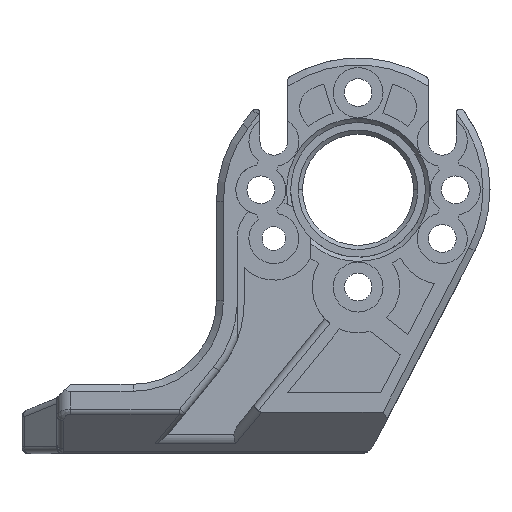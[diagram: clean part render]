
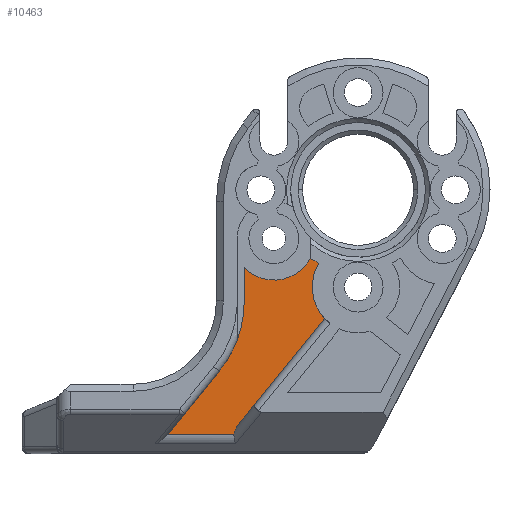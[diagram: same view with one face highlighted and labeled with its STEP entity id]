
A CAD part, front view. The second image highlights one B-rep face of the part: STEP entity #10463.
In plain terms, the highlighted planar face has unit normal (0, -1, 0).
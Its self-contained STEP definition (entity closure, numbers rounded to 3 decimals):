
#290=DIRECTION('',(-1.,0.,0.));
#291=VECTOR('',#290,4.75);
#292=CARTESIAN_POINT('',(2.765,-18.5,1.414));
#293=LINE('',#292,#291);
#294=DIRECTION('',(-0.631,0.,-0.776));
#295=VECTOR('',#294,5.849);
#296=CARTESIAN_POINT('',(1.706,-18.5,5.952));
#297=LINE('',#296,#295);
#298=CARTESIAN_POINT('',(-4.5,-18.5,11.));
#299=DIRECTION('',(0.,1.,0.));
#300=DIRECTION('',(1.,0.,0.));
#301=AXIS2_PLACEMENT_3D('',#298,#299,#300);
#303=DIRECTION('',(0.,0.,-1.));
#304=VECTOR('',#303,2.395);
#305=CARTESIAN_POINT('',(3.5,-18.5,13.395));
#306=LINE('',#305,#304);
#307=CARTESIAN_POINT('',(5.638,-18.5,15.5));
#308=DIRECTION('',(0.,1.,0.));
#309=DIRECTION('',(0.88,0.,-0.476));
#310=AXIS2_PLACEMENT_3D('',#307,#308,#309);
#312=CARTESIAN_POINT('',(11.7,-18.5,19.));
#313=DIRECTION('',(0.,1.,0.));
#314=DIRECTION('',(-0.471,0.,-0.882));
#315=AXIS2_PLACEMENT_3D('',#312,#313,#314);
#317=CARTESIAN_POINT('',(11.7,-18.5,12.));
#318=DIRECTION('',(0.,1.,0.));
#319=DIRECTION('',(-0.728,0.,-0.686));
#320=AXIS2_PLACEMENT_3D('',#317,#318,#319);
#342=DIRECTION('',(0.631,0.,0.776));
#343=VECTOR('',#342,9.945);
#344=CARTESIAN_POINT('',(3.022,-18.5,2.023));
#345=LINE('',#344,#343);
#371=CARTESIAN_POINT('',(2.765,-18.5,1.414));
#373=CARTESIAN_POINT('',(2.765,-18.5,1.414));
#374=CARTESIAN_POINT('',(2.769,-18.5,1.53));
#375=CARTESIAN_POINT('',(2.831,-18.5,1.742));
#376=CARTESIAN_POINT('',(2.948,-18.5,1.933));
#377=CARTESIAN_POINT('',(3.022,-18.5,2.023));
#8228=CARTESIAN_POINT('',(8.875,-18.5,13.706));
#8229=CARTESIAN_POINT('',(8.276,-18.5,14.072));
#8230=VERTEX_POINT('',#8228);
#8231=VERTEX_POINT('',#8229);
#8232=CARTESIAN_POINT('',(3.5,-18.5,13.395));
#8233=VERTEX_POINT('',#8232);
#8758=CARTESIAN_POINT('',(3.5,-18.5,11.));
#8759=VERTEX_POINT('',#8758);
#8760=CARTESIAN_POINT('',(1.706,-18.5,5.952));
#8761=VERTEX_POINT('',#8760);
#8770=CARTESIAN_POINT('',(9.298,-18.5,9.738));
#8771=VERTEX_POINT('',#8770);
#9410=CARTESIAN_POINT('',(-1.985,-18.5,1.414));
#9411=VERTEX_POINT('',#9410);
#9474=CARTESIAN_POINT('',(3.022,-18.5,2.023));
#9475=VERTEX_POINT('',#9474);
#9480=VERTEX_POINT('',#371);
#10439=CARTESIAN_POINT('',(0.,-18.5,0.));
#10440=DIRECTION('',(0.,-1.,0.));
#10441=DIRECTION('',(-1.,0.,0.));
#10442=AXIS2_PLACEMENT_3D('',#10439,#10440,#10441);
#10443=PLANE('',#10442);
#10445=ORIENTED_EDGE('',*,*,#10444,.F.);
#10447=ORIENTED_EDGE('',*,*,#10446,.F.);
#10449=ORIENTED_EDGE('',*,*,#10448,.T.);
#10451=ORIENTED_EDGE('',*,*,#10450,.F.);
#10453=ORIENTED_EDGE('',*,*,#10452,.F.);
#10455=ORIENTED_EDGE('',*,*,#10454,.F.);
#10457=ORIENTED_EDGE('',*,*,#10456,.F.);
#10459=ORIENTED_EDGE('',*,*,#10458,.F.);
#10460=ORIENTED_EDGE('',*,*,#10402,.F.);
#10461=EDGE_LOOP('',(#10445,#10447,#10449,#10451,#10453,#10455,#10457,#10459,
#10460));
#10462=FACE_OUTER_BOUND('',#10461,.F.);
#10463=ADVANCED_FACE('',(#10462),#10443,.T.);
#302=CIRCLE('',#301,8.);
#311=CIRCLE('',#310,3.);
#316=CIRCLE('',#315,6.);
#321=CIRCLE('',#320,3.3);
#378=B_SPLINE_CURVE_WITH_KNOTS('',3,(#373,#374,#375,#376,#377),.UNSPECIFIED.,
.F.,.F.,(4,1,4),(0.,0.5,1.),.UNSPECIFIED.);
#10402=EDGE_CURVE('',#8771,#8230,#321,.T.);
#10444=EDGE_CURVE('',#9475,#8771,#345,.T.);
#10446=EDGE_CURVE('',#9480,#9475,#378,.T.);
#10448=EDGE_CURVE('',#9480,#9411,#293,.T.);
#10450=EDGE_CURVE('',#8761,#9411,#297,.T.);
#10452=EDGE_CURVE('',#8759,#8761,#302,.T.);
#10454=EDGE_CURVE('',#8233,#8759,#306,.T.);
#10456=EDGE_CURVE('',#8231,#8233,#311,.T.);
#10458=EDGE_CURVE('',#8230,#8231,#316,.T.);
